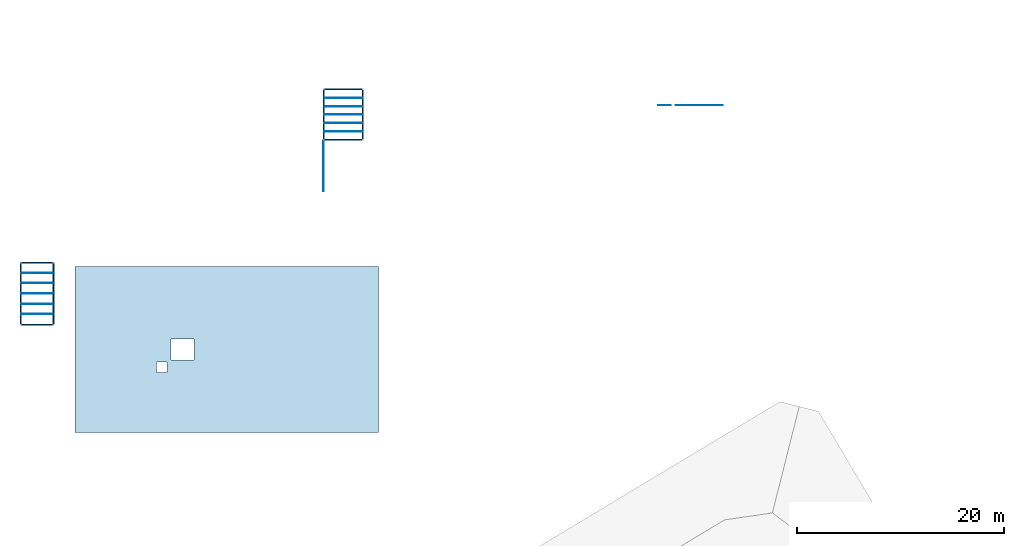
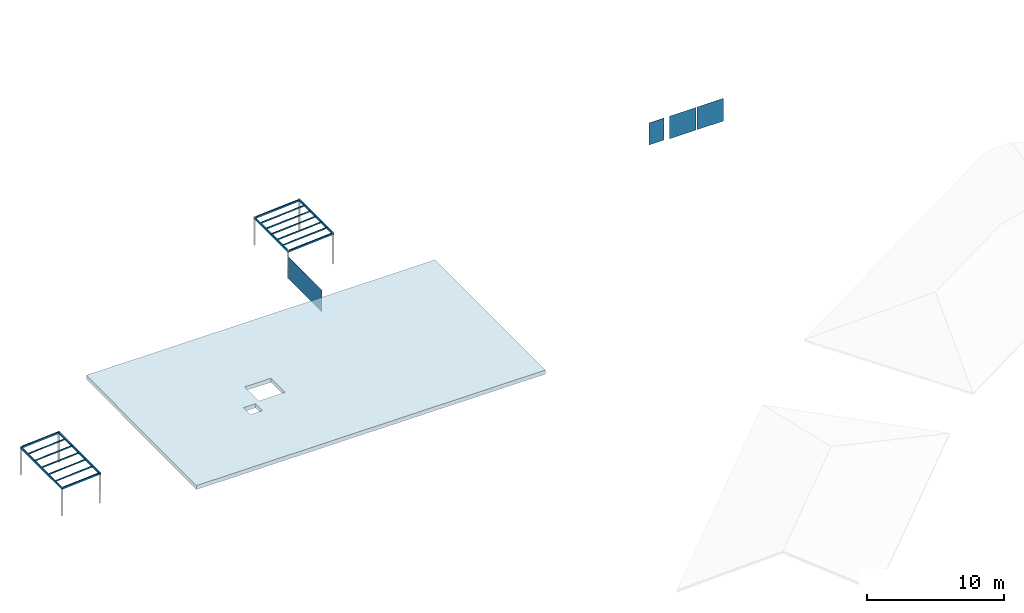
# One storey, part 3 of 4: 18 beams, 4 walls, 1 slab.
"""IFC2X3 building model written with IfcOpenShell, lengths in metres."""

from ifc_helpers import new_model, entity, si_unit, converted_unit, derived_unit, money_unit, direction, frame, origin_with_axes, origin_2d_with_axis, place, context, subcontext, project, spatial, polyline, rectangle, outline, extrude, clip, halfspace, material, layer, layer_set, layer_usage, type_object, element, save


model = new_model("IFC2X3")

# Units and contexts
model_context = context("Model", 3, precision=1e-05, world=origin_with_axes(), true_north=direction((0.0, 1.0)))
body_context = subcontext(model_context, "Body", "Model", "MODEL_VIEW")
ifc_project = project(units=[si_unit("LENGTHUNIT", "METRE"), si_unit("AREAUNIT", "SQUARE_METRE"), si_unit("VOLUMEUNIT", "CUBIC_METRE"), converted_unit("PLANEANGLEUNIT", "DEGREE", entity("IfcPlaneAngleMeasure", 0.0174532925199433), si_unit("PLANEANGLEUNIT", "RADIAN"), dimensions=[0, 0, 0, 0, 0, 0, 0]), money_unit("EUR"), converted_unit("TIMEUNIT", "Year", entity("IfcTimeMeasure", 31557600.0), si_unit("TIMEUNIT", "SECOND"), dimensions=[0, 0, 1, 0, 0, 0, 0]), si_unit("MASSUNIT", "GRAM", prefix="KILO"), si_unit("THERMODYNAMICTEMPERATUREUNIT", "DEGREE_CELSIUS"), si_unit("LUMINOUSINTENSITYUNIT", "LUMEN"), si_unit("ENERGYUNIT", "JOULE", prefix="MEGA"), derived_unit("THERMALCONDUCTANCEUNIT", [(si_unit("POWERUNIT", "WATT"), 1), (si_unit("LENGTHUNIT", "METRE"), -1), (si_unit("THERMODYNAMICTEMPERATUREUNIT", "KELVIN"), -1)]), derived_unit("SPECIFICHEATCAPACITYUNIT", [(si_unit("ENERGYUNIT", "JOULE"), 1), (si_unit("MASSUNIT", "GRAM", prefix="KILO"), -1), (si_unit("THERMODYNAMICTEMPERATUREUNIT", "KELVIN"), -1)]), derived_unit("MASSDENSITYUNIT", [(si_unit("MASSUNIT", "GRAM", prefix="KILO"), 1), (si_unit("VOLUMEUNIT", "CUBIC_METRE"), -1)])], contexts=[model_context])

# Site, building, storey
site_placement = place(None, origin_with_axes())
site = spatial("IfcSite", under=ifc_project, at=site_placement, Name="Site", CompositionType="ELEMENT")
building_placement = place(site_placement, origin_with_axes())
building = spatial("IfcBuilding", under=site, at=building_placement, Name="Bâtiment", CompositionType="ELEMENT")
storey_placement = place(building_placement, frame((0.0, 0.0, 10.12), z_axis=(0.0, 0.0, 1.0), x_axis=(1.0, 0.0, 0.0)))
storey = spatial("IfcBuildingStorey", under=building, at=storey_placement, Name="Toiture", CompositionType="ELEMENT", Elevation=10.12)

# Beams
ifc_material_1 = material(Name="Aluminium")
beam_type_1 = type_object("IfcBeamType", Name="Aluminium 50 x 75", PredefinedType="NOTDEFINED")
for number, where, z_axis, x_axis in (
    (1, (22.78346269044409, -12.68581518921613, -7.461441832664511), (0.0, 0.0, 1.0), (0.0, 1.0, 0.0)),
    (2, (22.78346269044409, -15.68187538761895, -7.461441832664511), (0.0, 0.0, 1.0), (0.0, 1.0, 0.0)),
    (3, (22.78346269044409, -11.68712845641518, -7.461441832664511), (0.0, 0.0, 1.0), (0.0, 1.0, 0.0)),
):
    element("IfcBeam", number, at=place(storey_placement, frame(where, z_axis=z_axis, x_axis=x_axis)), inside=storey, type_object=beam_type_1, material=ifc_material_1, Name="PoBA-002", context=body_context, shape_type="Clipping", body=[
        clip(clip(extrude(rectangle(XDim=0.075, YDim=0.05, at=origin_2d_with_axis()), frame((0.0, -0.007406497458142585, 0.0005184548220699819), z_axis=(0.0, 0.9975589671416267, -0.06982912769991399), x_axis=(0.0, 0.06982912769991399, 0.9975589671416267)), (0.0, 0.0, 1.0), 3.110261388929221), halfspace(frame((0.0, 0.0, 0.0), z_axis=(0.0, 1.0, 0.0), x_axis=(0.0, 0.0, 1.0)), True)), halfspace(frame((0.0, 3.08785614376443, 0.0), z_axis=(0.0, -1.0, 0.0), x_axis=(0.0, 0.0, -1.0)), True)),
    ])
beam_1_placement = place(storey_placement, frame((52.69975588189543, 2.797479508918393, -7.421083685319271), z_axis=(0.0, 0.0, 1.0), x_axis=(0.0, 1.0, 0.0)))
element("IfcBeam", 4, at=beam_1_placement, inside=storey, type_object=beam_type_1, material=ifc_material_1, Name="PoBA-002", context=body_context, shape_type="Clipping", body=[
    clip(clip(extrude(rectangle(XDim=0.075, YDim=0.05, at=origin_2d_with_axis()), frame((0.0, -0.007406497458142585, 0.0005184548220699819), z_axis=(0.0, 0.9975589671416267, -0.06982912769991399), x_axis=(0.0, 0.06982912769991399, 0.9975589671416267)), (0.0, 0.0, 1.0), 3.688217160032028), halfspace(frame((0.0, 0.0, 0.0), z_axis=(0.0, 1.0, 0.0), x_axis=(0.0, 0.0, 1.0)), True)), halfspace(frame((0.0, 3.664401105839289, 0.0), z_axis=(0.0, -1.0, 0.0), x_axis=(0.0, 0.0, -1.0)), True)),
])
for number, where, z_axis, x_axis in (
    (5, (22.7834626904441, -14.68318865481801, -7.461441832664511), (0.0, 0.0, 1.0), (0.0, 1.0, 0.0)),
    (6, (22.78346269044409, -13.68450192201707, -7.461441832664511), (0.0, 0.0, 1.0), (0.0, 1.0, 0.0)),
):
    element("IfcBeam", number, at=place(storey_placement, frame(where, z_axis=z_axis, x_axis=x_axis)), inside=storey, type_object=beam_type_1, material=ifc_material_1, Name="PoBA-002", context=body_context, shape_type="Clipping", body=[
        clip(clip(extrude(rectangle(XDim=0.075, YDim=0.05, at=origin_2d_with_axis()), frame((0.0, -0.007406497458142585, 0.0005184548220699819), z_axis=(0.0, 0.9975589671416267, -0.06982912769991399), x_axis=(0.0, 0.06982912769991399, 0.9975589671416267)), (0.0, 0.0, 1.0), 3.110261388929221), halfspace(frame((0.0, 0.0, 0.0), z_axis=(0.0, 1.0, 0.0), x_axis=(0.0, 0.0, 1.0)), True)), halfspace(frame((0.0, 3.08785614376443, 0.0), z_axis=(0.0, -1.0, 0.0), x_axis=(0.0, 0.0, -1.0)), True)),
    ])
for number, where, z_axis, x_axis in (
    (7, (52.70136587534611, 1.989181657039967, -7.421083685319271), (0.0, 0.0, 1.0), (0.0, 1.0, 0.0)),
    (8, (52.70780584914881, 5.23915357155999, -7.421083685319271), (0.0, 0.0, 1.0), (0.0, 1.0, 0.0)),
    (9, (52.70136587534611, 3.622460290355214, -7.421083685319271), (0.0, 0.0, 1.0), (0.0, 1.0, 0.0)),
    (10, (52.70619585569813, 4.414172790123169, -7.421083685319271), (0.0, 0.0, 1.0), (0.0, 1.0, 0.0)),
):
    element("IfcBeam", number, at=place(storey_placement, frame(where, z_axis=z_axis, x_axis=x_axis)), inside=storey, type_object=beam_type_1, material=ifc_material_1, Name="PoBA-002", context=body_context, shape_type="Clipping", body=[
        clip(clip(extrude(rectangle(XDim=0.075, YDim=0.05, at=origin_2d_with_axis()), frame((0.0, -0.007406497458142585, 0.0005184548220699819), z_axis=(0.0, 0.9975589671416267, -0.06982912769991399), x_axis=(0.0, 0.06982912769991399, 0.9975589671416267)), (0.0, 0.0, 1.0), 3.688217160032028), halfspace(frame((0.0, 0.0, 0.0), z_axis=(0.0, 1.0, 0.0), x_axis=(0.0, 0.0, 1.0)), True)), halfspace(frame((0.0, 3.664401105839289, 0.0), z_axis=(0.0, -1.0, 0.0), x_axis=(0.0, 0.0, -1.0)), True)),
    ])
beam_type_2 = type_object("IfcBeamType", Name="Aluminium 100 x 150", PredefinedType="NOTDEFINED")
beam_2_placement = place(storey_placement, frame((22.83346265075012, -16.73056212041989, -7.491850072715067), z_axis=(0.0, 0.0, 1.0), x_axis=(1.0, 0.0, 0.0)))
element("IfcBeam", 11, at=beam_2_placement, inside=storey, type_object=beam_type_2, material=ifc_material_1, Name="PoBA-002", context=body_context, shape_type="SweptSolid", body=[
    extrude(rectangle(XDim=0.15, YDim=0.1, at=origin_2d_with_axis()), frame((0.0, 0.0, 0.0), z_axis=(0.0, 1.0, 0.0), x_axis=(0.0, 0.0, 1.0)), (0.0, 0.0, 1.0), 5.992120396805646),
])
beam_3_placement = place(storey_placement, frame((22.78346265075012, -16.68056212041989, -7.492033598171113), z_axis=(0.0, 0.0, 1.0), x_axis=(0.0, 1.0, 0.0)))
element("IfcBeam", 12, at=beam_3_placement, inside=storey, type_object=beam_type_2, material=ifc_material_1, Name="PoBA-002", context=body_context, shape_type="Clipping", body=[
    clip(clip(extrude(rectangle(XDim=0.15, YDim=0.1, at=origin_2d_with_axis()), frame((0.0, -0.01481299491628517, 0.001036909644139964), z_axis=(0.0, 0.9975589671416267, -0.06982912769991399), x_axis=(0.0, 0.06982912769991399, 0.9975589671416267)), (0.0, 0.0, 1.0), 3.125110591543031), halfspace(frame((0.0, 0.0, 0.0), z_axis=(0.0, 1.0, 0.0), x_axis=(0.0, 0.0, 1.0)), True)), halfspace(frame((0.0, 3.087856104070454, 0.0), z_axis=(0.0, -1.0, 0.0), x_axis=(0.0, 0.0, -1.0)), True)),
])
beam_4_placement = place(storey_placement, frame((19.64560654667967, -16.73056212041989, -7.714999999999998), z_axis=(0.0, 0.0, 1.0), x_axis=(1.0, 0.0, 0.0)))
element("IfcBeam", 13, at=beam_4_placement, inside=storey, type_object=beam_type_2, material=ifc_material_1, Name="PoBA-002", context=body_context, shape_type="SweptSolid", body=[
    extrude(rectangle(XDim=0.15, YDim=0.1, at=origin_2d_with_axis()), frame((0.0, 0.0, 0.0), z_axis=(0.0, 1.0, 0.0), x_axis=(0.0, 0.0, 1.0)), (0.0, 0.0, 1.0), 5.992120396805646),
])
beam_5_placement = place(storey_placement, frame((22.88346265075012, -10.68844172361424, -7.485033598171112), z_axis=(0.0, 0.0, 1.0), x_axis=(0.0, 1.0, 0.0)))
element("IfcBeam", 14, at=beam_5_placement, inside=storey, type_object=beam_type_2, material=ifc_material_1, Name="PoBA-002", context=body_context, shape_type="Clipping", body=[
    clip(clip(extrude(rectangle(XDim=0.15, YDim=0.1, at=origin_2d_with_axis()), frame((0.0, -0.01481299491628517, 0.001036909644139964), z_axis=(0.0, 0.9975589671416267, -0.06982912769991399), x_axis=(0.0, 0.06982912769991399, 0.9975589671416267)), (0.0, 0.0, 1.0), 3.225355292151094), halfspace(frame((0.0, 0.0, 0.0), z_axis=(0.0, 1.0, 0.0), x_axis=(0.0, 0.0, 1.0)), True)), halfspace(frame((0.0, 3.187856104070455, 0.0), z_axis=(0.0, -1.0, 0.0), x_axis=(0.0, 0.0, -1.0)), True)),
])
beam_6_placement = place(storey_placement, frame((48.98535477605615, 1.114200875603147, -7.714999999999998), z_axis=(0.0, 0.0, 1.0), x_axis=(1.0, 0.0, 0.0)))
element("IfcBeam", 15, at=beam_6_placement, inside=storey, type_object=beam_type_2, material=ifc_material_1, Name="PoBA-002", context=body_context, shape_type="SweptSolid", body=[
    extrude(rectangle(XDim=0.15, YDim=0.1, at=origin_2d_with_axis()), frame((0.0, 0.0, 0.0), z_axis=(0.0, 1.0, 0.0), x_axis=(0.0, 0.0, 1.0)), (0.0, 0.0, 1.0), 4.999835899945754),
])
for number, where, z_axis, x_axis in (
    (16, (52.69975588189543, 6.0640367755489, -7.451675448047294), (0.0, 0.0, 1.0), (0.0, 1.0, 0.0)),
    (17, (52.69975588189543, 1.164200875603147, -7.451675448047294), (0.0, 0.0, 1.0), (0.0, 1.0, 0.0)),
):
    element("IfcBeam", number, at=place(storey_placement, frame(where, z_axis=z_axis, x_axis=x_axis)), inside=storey, type_object=beam_type_2, material=ifc_material_1, Name="PoBA-002", context=body_context, shape_type="Clipping", body=[
        clip(clip(extrude(rectangle(XDim=0.15, YDim=0.1, at=origin_2d_with_axis()), frame((0.0, -0.01481299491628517, 0.001036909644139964), z_axis=(0.0, 0.9975589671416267, -0.06982912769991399), x_axis=(0.0, 0.06982912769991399, 0.9975589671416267)), (0.0, 0.0, 1.0), 3.703066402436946), halfspace(frame((0.0, 0.0, 0.0), z_axis=(0.0, 1.0, 0.0), x_axis=(0.0, 0.0, 1.0)), True)), halfspace(frame((0.0, 3.664401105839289, 0.0), z_axis=(0.0, -1.0, 0.0), x_axis=(0.0, 0.0, -1.0)), True)),
    ])
beam_7_placement = place(storey_placement, frame((52.74975588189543, 1.114200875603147, -7.444491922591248), z_axis=(0.0, 0.0, 1.0), x_axis=(1.0, 0.0, 0.0)))
element("IfcBeam", 18, at=beam_7_placement, inside=storey, type_object=beam_type_2, material=ifc_material_1, Name="PoBA-002", context=body_context, shape_type="SweptSolid", body=[
    extrude(rectangle(XDim=0.15, YDim=0.1, at=origin_2d_with_axis()), frame((0.0, 0.0, 0.0), z_axis=(0.0, 1.0, 0.0), x_axis=(0.0, 0.0, 1.0)), (0.0, 0.0, 1.0), 4.999835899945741),
])

# Slab
ifc_material_2 = material(Name="*ÉTANCHÉITÉ")
ifc_layer_1 = layer(ifc_material_2, 0.015, ventilated="UNKNOWN")
ifc_material_3 = material(Name="*GENERIQUE - ISOLATION PLANCHER")
ifc_layer_2 = layer(ifc_material_3, 0.14, ventilated="UNKNOWN")
ifc_material_4 = material(Name="Béton")
ifc_layer_3 = layer(ifc_material_4, 0.2, ventilated="UNKNOWN")
ifc_layer_set_1 = layer_set([ifc_layer_1, ifc_layer_2, ifc_layer_3], Name="*Toiture MEMBRANE PVC")
ifc_layer_usage_1 = layer_usage(ifc_layer_set_1, "AXIS3", "NEGATIVE", 0.355)
slab_type = type_object("IfcSlabType", Name="*Toiture MEMBRANE PVC 355", PredefinedType="ROOF")
slab_placement = place(storey_placement, frame((24.92199990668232, -27.08556237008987, -3.334784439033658), z_axis=(0.0, 0.0, 1.0), x_axis=(1.0, 0.0, 0.0)))
element("IfcSlab", 19, at=slab_placement, inside=storey, type_object=slab_type, material=ifc_layer_usage_1, Name="Toit-08", PredefinedType="ROOF", context=body_context, shape_type="SweptSolid", body=[
    extrude(outline(polyline([(29.34800017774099, -0.05000062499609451), (29.34800017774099, 16.00620038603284), (0.0, 16.00620038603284), (0.0, -0.05000062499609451), (29.34800017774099, -0.05000062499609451)]), holes=[polyline([(11.49100809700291, 8.998112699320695), (11.49100809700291, 6.958084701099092), (9.271008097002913, 6.958084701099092), (9.271008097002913, 8.998112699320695), (11.49100809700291, 8.998112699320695)]), polyline([(8.89100809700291, 6.762084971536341), (8.89100809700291, 5.762072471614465), (7.89100809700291, 5.762072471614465), (7.89100809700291, 6.762084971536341), (8.89100809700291, 6.762084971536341)])]), frame((0.0, 0.0, 0.0), z_axis=(0.0, -0.004999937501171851, 0.9999875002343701), x_axis=(1.0, 0.0, 0.0)), (0.0, 0.004999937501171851, 0.9999875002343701), 0.355004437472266),
])

# Walls
ifc_material_5 = material(Name="Métal - Fer")
ifc_layer_4 = layer(ifc_material_5, 0.01, ventilated="UNKNOWN")
ifc_layer_set_2 = layer_set([ifc_layer_4], Name="Métal - Fer 0.01")
ifc_layer_usage_2 = layer_usage(ifc_layer_set_2, "AXIS2", "NEGATIVE", 0.0)
wall_type = type_object("IfcWallType", Name="Métal - Fer 10", PredefinedType="NOTDEFINED")
wall_1_placement = place(storey_placement, frame((87.55370675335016, 4.532697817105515, -11.67547243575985), z_axis=(0.0, 0.0, 1.0), x_axis=(-1.0, 0.0, 0.0)))
element("IfcWallStandardCase", 20, at=wall_1_placement, inside=storey, type_object=wall_type, material=ifc_layer_usage_2, Name="MC_AGL_Ext-062", context=body_context, shape_type="SweptSolid", body=[
    extrude(outline(polyline([(0.0, -0.009999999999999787), (2.227875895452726, -0.009999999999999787), (2.227875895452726, 0.0), (0.0, 0.0), (0.0, -0.009999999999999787)])), origin_with_axes(), (0.0, 0.0, 1.0), 2.015472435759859),
])
ifc_layer_usage_3 = layer_usage(ifc_layer_set_2, "AXIS2", "NEGATIVE", 0.0)
wall_2_placement = place(storey_placement, frame((85.24583085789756, 4.532697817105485, -11.67547243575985), z_axis=(0.0, 0.0, 1.0), x_axis=(-1.0, 0.0, 0.0)))
element("IfcWallStandardCase", 21, at=wall_2_placement, inside=storey, type_object=wall_type, material=ifc_layer_usage_3, Name="MC_AGL_Ext-062", context=body_context, shape_type="SweptSolid", body=[
    extrude(outline(polyline([(0.0, -0.009999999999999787), (2.228373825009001, -0.009999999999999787), (2.228373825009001, 0.0), (0.0, 0.0), (0.0, -0.009999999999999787)])), origin_with_axes(), (0.0, 0.0, 1.0), 2.015472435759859),
])
ifc_layer_usage_4 = layer_usage(ifc_layer_set_2, "AXIS2", "NEGATIVE", 0.0)
wall_3_placement = place(storey_placement, frame((82.53570094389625, 4.532697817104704, -11.6199572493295), z_axis=(0.0, 0.0, 1.0), x_axis=(-0.9999999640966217, -0.0002679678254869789, 0.0)))
element("IfcWallStandardCase", 22, at=wall_3_placement, inside=storey, type_object=wall_type, material=ifc_layer_usage_4, Name="MC_AGL_Ext-062", context=body_context, shape_type="SweptSolid", body=[
    extrude(outline(polyline([(0.0, -0.01000000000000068), (1.239332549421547, -0.01000000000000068), (1.239332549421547, 0.0), (0.0, 0.0), (0.0, -0.01000000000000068)])), origin_with_axes(), (0.0, 0.0, 1.0), 1.959957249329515),
])
ifc_layer_usage_5 = layer_usage(ifc_layer_set_2, "AXIS2", "NEGATIVE", 0.0)
wall_4_placement = place(storey_placement, frame((48.93569491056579, -3.805963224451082, -10.08), z_axis=(0.0, 0.0, 1.0), x_axis=(0.0, 1.0, 0.0)))
element("IfcWallStandardCase", 23, at=wall_4_placement, inside=storey, type_object=wall_type, material=ifc_layer_usage_5, Name="MC_AGL_Ext-062", context=body_context, shape_type="SweptSolid", body=[
    extrude(outline(polyline([(0.0, -0.00999999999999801), (4.880000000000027, -0.00999999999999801), (4.880000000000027, 0.0), (0.0, 0.0), (0.0, -0.00999999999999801)])), origin_with_axes(), (0.0, 0.0, 1.0), 1.930000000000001),
])

save(model, "model.ifc")
